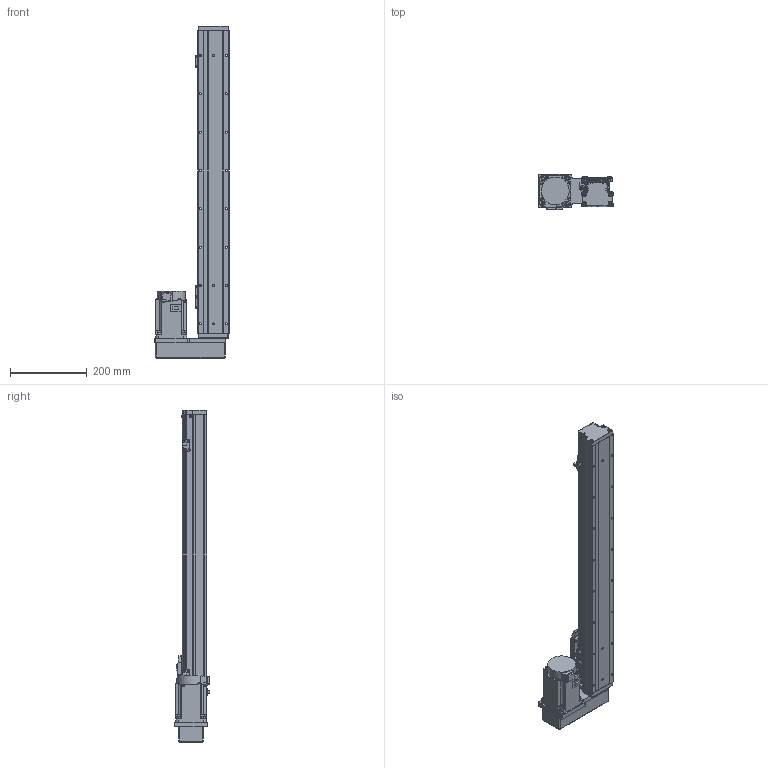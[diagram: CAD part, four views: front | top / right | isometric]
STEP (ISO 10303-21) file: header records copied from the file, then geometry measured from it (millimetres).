
FILE_DESCRIPTION (( 'STEP AP203' ), '1' );
FILE_NAME ('GTH8-650-BL-M75-C4.step', '2023-02-14T02:25:07', ( '微软用户' ), ( '微软中国' ), 'SwSTEP 2.0', 'SolidWorks 2020', '' );
FILE_SCHEMA (( 'CONFIG_CONTROL_DESIGN' ));
Length unit declared in the file: millimetre
Products named in the file (18): GTH80-004; GTH80-028; hg-kn73j_-s100; GTH80-006; GTH50-024; GTH8-650-BL-M75-C4; GTH80-013; GTH50-023; GBT 70.3-M3℅6; GBT96.1-2002 3×0.8; GTH80-001_600; GTH80-022; BTH-M3X5X6; GTH80-003; GBT 70.1-M3℅6; CTHA86-015-3_CTHA86-015-4; GBT 70.1-M4×16; CTHA86-035
Assembly tree (57 placements, depth 2):
  GTH8-650-BL-M75-C4
    GTH80-001_600
    GTH80-003
    GTH80-004
    GTH80-006
    GTH80-013
    GBT 70.3-M3℅6  x4
    GTH80-022
    GBT 70.1-M3℅6  x14
    GBT 70.1-M4×16  x8
    GTH80-028  x2
    GTH50-024  x3
    GTH50-023  x3
    GBT96.1-2002 3×0.8  x6
    BTH-M3X5X6  x8
    CTHA86-015-3_CTHA86-015-4
    CTHA86-035
    hg-kn73j_-s100
Bounding box: 193.5 x 92.3 x 866 mm (x, y, z)
Volume: 4967013.1 mm3; surface area: 505443.7 mm2
Topology: 59 solids, 59 shells, 2195 faces, 5094 edges, 3120 vertices
Faces by surface type: plane 1153, cylinder 627, cone 243, torus 158, sphere 12, bspline 2
Entity records: 39588 total; most frequent: CARTESIAN_POINT 6647, DIRECTION 6529, ORIENTED_EDGE 5998, EDGE_CURVE 2999, AXIS2_PLACEMENT_3D 2302, VECTOR 1925, LINE 1925, VERTEX_POINT 1895
